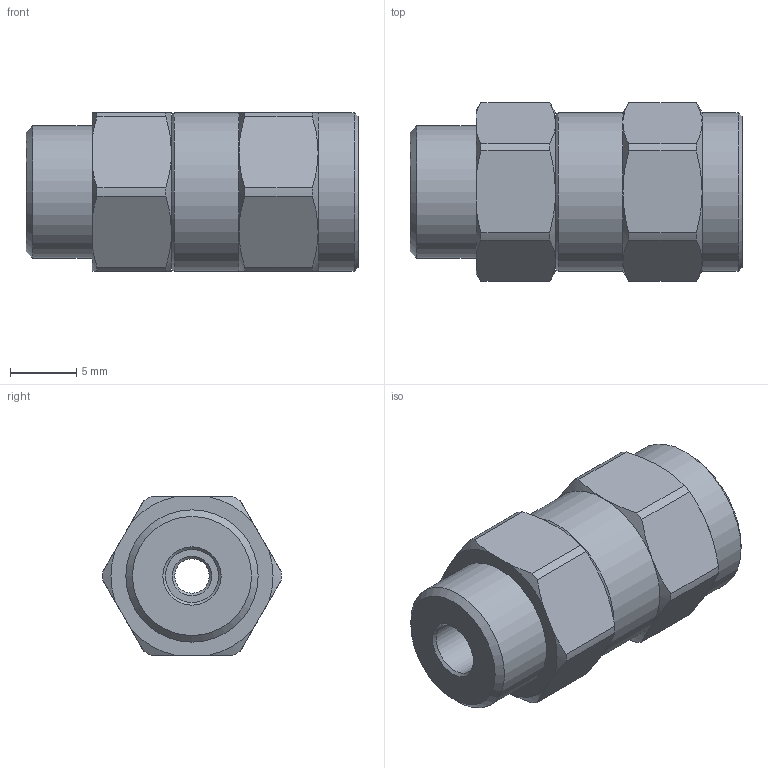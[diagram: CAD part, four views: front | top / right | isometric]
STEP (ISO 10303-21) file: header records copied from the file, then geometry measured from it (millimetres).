
FILE_DESCRIPTION(('STEP AP214'),'1');
FILE_NAME('BVP-10-A21.stp','2026-02-02T07:55:03',(' '),(' '),'Spatial InterOp 3D',' ',' ');
FILE_SCHEMA(('AUTOMOTIVE_DESIGN { 1 0 10303 214 1 1 1 1 }'));
Length unit declared in the file: millimetre
Products named in the file (1): BVP-10-A21
Bounding box: 25.1 x 13.5 x 12 mm (x, y, z)
Volume: 2089 mm3; surface area: 1753.8 mm2
Topology: 1 solids, 2 shells, 79 faces, 185 edges, 119 vertices
Faces by surface type: cone 31, plane 25, cylinder 23
Full cylindrical faces by diameter (mm): 2.6 x1, 2.689 x1, 4 x1, 4.7 x1, 7 x1, 8.1 x1, 8.25 x1, 10 x2, 12 x2
Entity records: 3409 total; most frequent: CARTESIAN_POINT 420, DIRECTION 344, ORIENTED_EDGE 298, STYLED_ITEM 229, PRESENTATION_STYLE_ASSIGNMENT 229, COLOUR_RGB 229, AXIS2_PLACEMENT_3D 157, EDGE_CURVE 149
